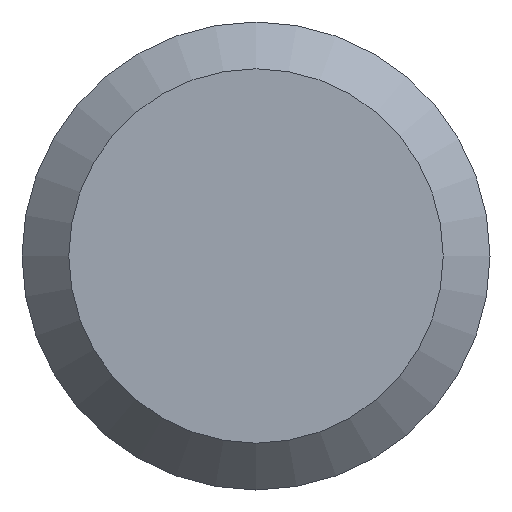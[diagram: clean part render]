
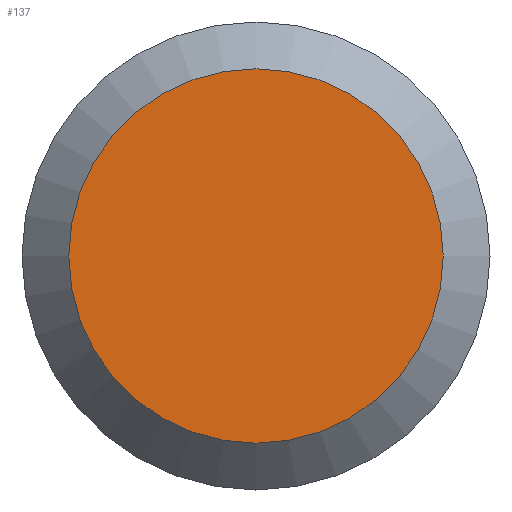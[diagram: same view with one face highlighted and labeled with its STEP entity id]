
A CAD part, left-side view. The second image highlights one B-rep face of the part: STEP entity #137.
In plain terms, the highlighted planar face has unit normal (-1, 0, 0).
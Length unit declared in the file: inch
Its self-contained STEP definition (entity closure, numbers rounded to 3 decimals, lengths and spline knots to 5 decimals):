
#2 = DIRECTION ( 'NONE',  ( 0., 0., -1. ) ) ;
#75 = ORIENTED_EDGE ( 'NONE', *, *, #76, .T. ) ;
#76 = EDGE_CURVE ( 'NONE', #169, #169, #118, .T. ) ;
#80 = EDGE_LOOP ( 'NONE', ( #75 ) ) ;
#118 = CIRCLE ( 'NONE', #135, 0.0186 ) ;
#135 = AXIS2_PLACEMENT_3D ( 'NONE', #178, #177, #173 ) ;
#137 = ADVANCED_FACE ( 'NONE', ( #155 ), #229, .F. ) ;
#151 = CARTESIAN_POINT ( 'NONE',  ( 0., 0.02325, 0. ) ) ;
#155 = FACE_OUTER_BOUND ( 'NONE', #80, .T. ) ;
#169 = VERTEX_POINT ( 'NONE', #210 ) ;
#173 = DIRECTION ( 'NONE',  ( 0., 0., -1. ) ) ;
#177 = DIRECTION ( 'NONE',  ( -1., 0., 0. ) ) ;
#178 = CARTESIAN_POINT ( 'NONE',  ( 0., 0., 0. ) ) ;
#210 = CARTESIAN_POINT ( 'NONE',  ( 0., 0., -0.0186 ) ) ;
#229 = PLANE ( 'NONE',  #247 ) ;
#239 = DIRECTION ( 'NONE',  ( 1., 0., 0. ) ) ;
#247 = AXIS2_PLACEMENT_3D ( 'NONE', #151, #239, #2 ) ;
